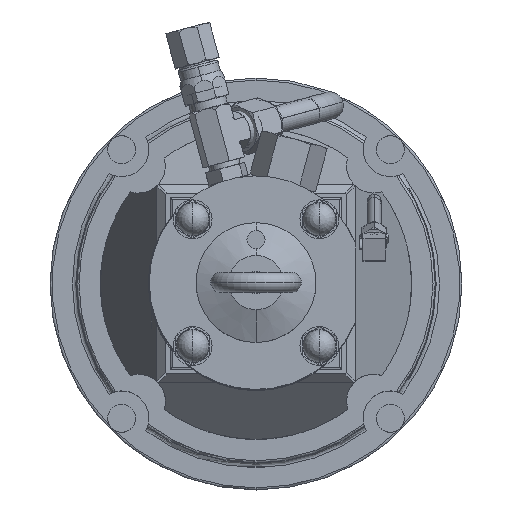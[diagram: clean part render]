
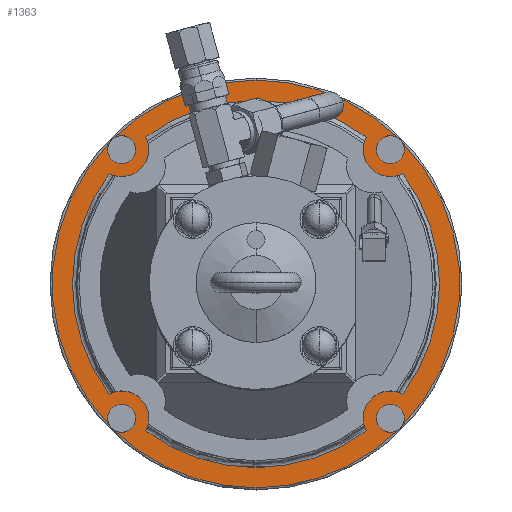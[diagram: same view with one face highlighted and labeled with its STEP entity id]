
A CAD part, top view. The second image highlights one B-rep face of the part: STEP entity #1363.
In plain terms, the highlighted planar face has unit normal (0, 0, 1).
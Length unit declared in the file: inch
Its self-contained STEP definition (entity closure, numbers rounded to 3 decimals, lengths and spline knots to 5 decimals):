
#33=CARTESIAN_POINT('',(3.712,-3.712,0.344));
#34=DIRECTION('',(0.,0.,1.));
#35=DIRECTION('',(0.81,-0.586,0.));
#36=AXIS2_PLACEMENT_3D('',#33,#34,#35);
#38=CARTESIAN_POINT('',(3.712,-3.712,0.344));
#39=DIRECTION('',(0.,0.,1.));
#40=DIRECTION('',(1.,0.,0.));
#41=AXIS2_PLACEMENT_3D('',#38,#39,#40);
#43=CARTESIAN_POINT('',(3.712,-3.712,0.344));
#44=DIRECTION('',(0.,0.,1.));
#45=DIRECTION('',(-1.,0.,0.));
#46=AXIS2_PLACEMENT_3D('',#43,#44,#45);
#48=CARTESIAN_POINT('',(-3.712,-3.712,0.344));
#49=DIRECTION('',(0.,0.,1.));
#50=DIRECTION('',(-0.586,-0.81,0.));
#51=AXIS2_PLACEMENT_3D('',#48,#49,#50);
#53=CARTESIAN_POINT('',(-3.712,-3.712,0.344));
#54=DIRECTION('',(0.,0.,1.));
#55=DIRECTION('',(1.,0.,0.));
#56=AXIS2_PLACEMENT_3D('',#53,#54,#55);
#58=CARTESIAN_POINT('',(-3.712,-3.712,0.344));
#59=DIRECTION('',(0.,0.,1.));
#60=DIRECTION('',(-1.,0.,0.));
#61=AXIS2_PLACEMENT_3D('',#58,#59,#60);
#63=CARTESIAN_POINT('',(-3.712,3.712,0.344));
#64=DIRECTION('',(0.,0.,1.));
#65=DIRECTION('',(-0.81,0.586,0.));
#66=AXIS2_PLACEMENT_3D('',#63,#64,#65);
#68=CARTESIAN_POINT('',(-3.712,3.712,0.344));
#69=DIRECTION('',(0.,0.,1.));
#70=DIRECTION('',(-1.,0.,0.));
#71=AXIS2_PLACEMENT_3D('',#68,#69,#70);
#73=CARTESIAN_POINT('',(-3.712,3.712,0.344));
#74=DIRECTION('',(0.,0.,1.));
#75=DIRECTION('',(1.,0.,0.));
#76=AXIS2_PLACEMENT_3D('',#73,#74,#75);
#78=CARTESIAN_POINT('',(3.712,3.712,0.344));
#79=DIRECTION('',(0.,0.,1.));
#80=DIRECTION('',(0.586,0.81,0.));
#81=AXIS2_PLACEMENT_3D('',#78,#79,#80);
#83=CARTESIAN_POINT('',(3.712,3.712,0.344));
#84=DIRECTION('',(0.,0.,1.));
#85=DIRECTION('',(-1.,0.,0.));
#86=AXIS2_PLACEMENT_3D('',#83,#84,#85);
#88=CARTESIAN_POINT('',(3.712,3.712,0.344));
#89=DIRECTION('',(0.,0.,1.));
#90=DIRECTION('',(1.,0.,0.));
#91=AXIS2_PLACEMENT_3D('',#88,#89,#90);
#681=CARTESIAN_POINT('',(0.,0.,0.344));
#682=DIRECTION('',(0.,0.,-1.));
#683=DIRECTION('',(0.715,0.699,0.));
#684=AXIS2_PLACEMENT_3D('',#681,#682,#683);
#692=CARTESIAN_POINT('',(0.,0.,0.344));
#693=DIRECTION('',(0.,0.,-1.));
#694=DIRECTION('',(0.,1.,0.));
#695=AXIS2_PLACEMENT_3D('',#692,#693,#694);
#702=CARTESIAN_POINT('',(0.,0.,0.344));
#703=DIRECTION('',(0.,0.,-1.));
#704=DIRECTION('',(0.699,-0.715,0.));
#705=AXIS2_PLACEMENT_3D('',#702,#703,#704);
#713=CARTESIAN_POINT('',(0.,0.,0.344));
#714=DIRECTION('',(0.,0.,1.));
#715=DIRECTION('',(-0.699,-0.715,0.));
#716=AXIS2_PLACEMENT_3D('',#713,#714,#715);
#733=CARTESIAN_POINT('',(0.,0.,0.344));
#734=DIRECTION('',(0.,0.,1.));
#735=DIRECTION('',(0.,1.,0.));
#736=AXIS2_PLACEMENT_3D('',#733,#734,#735);
#744=CARTESIAN_POINT('',(0.,0.,0.344));
#745=DIRECTION('',(0.,0.,1.));
#746=DIRECTION('',(-0.715,0.699,0.));
#747=AXIS2_PLACEMENT_3D('',#744,#745,#746);
#1065=CARTESIAN_POINT('',(0.,-5.63,0.344));
#1066=VERTEX_POINT('',#1065);
#1067=CARTESIAN_POINT('',(0.,5.63,0.344));
#1068=VERTEX_POINT('',#1067);
#1212=CARTESIAN_POINT('',(-4.097,3.712,0.344));
#1213=CARTESIAN_POINT('',(-4.02404,3.93751,0.344));
#1214=VERTEX_POINT('',#1212);
#1215=VERTEX_POINT('',#1213);
#1216=CARTESIAN_POINT('',(-3.93751,4.02404,0.344));
#1217=CARTESIAN_POINT('',(-3.327,3.712,0.344));
#1218=VERTEX_POINT('',#1216);
#1219=VERTEX_POINT('',#1217);
#1224=CARTESIAN_POINT('',(-4.097,-3.712,0.344));
#1225=CARTESIAN_POINT('',(-4.02404,-3.93751,0.344));
#1226=VERTEX_POINT('',#1224);
#1227=VERTEX_POINT('',#1225);
#1228=CARTESIAN_POINT('',(-3.93751,-4.02404,0.344));
#1229=CARTESIAN_POINT('',(-3.327,-3.712,0.344));
#1230=VERTEX_POINT('',#1228);
#1231=VERTEX_POINT('',#1229);
#1236=CARTESIAN_POINT('',(4.097,3.712,0.344));
#1237=CARTESIAN_POINT('',(4.02404,3.93751,0.344));
#1238=VERTEX_POINT('',#1236);
#1239=VERTEX_POINT('',#1237);
#1240=CARTESIAN_POINT('',(3.93751,4.02404,0.344));
#1241=CARTESIAN_POINT('',(3.327,3.712,0.344));
#1242=VERTEX_POINT('',#1240);
#1243=VERTEX_POINT('',#1241);
#1248=CARTESIAN_POINT('',(4.097,-3.712,0.344));
#1249=CARTESIAN_POINT('',(4.02404,-3.93751,0.344));
#1250=VERTEX_POINT('',#1248);
#1251=VERTEX_POINT('',#1249);
#1252=CARTESIAN_POINT('',(3.93751,-4.02404,0.344));
#1253=CARTESIAN_POINT('',(3.327,-3.712,0.344));
#1254=VERTEX_POINT('',#1252);
#1255=VERTEX_POINT('',#1253);
#1320=CARTESIAN_POINT('',(0.,0.,0.344));
#1321=DIRECTION('',(0.,0.,1.));
#1322=DIRECTION('',(0.,-1.,0.));
#1323=AXIS2_PLACEMENT_3D('',#1320,#1321,#1322);
#1324=PLANE('',#1323);
#1326=ORIENTED_EDGE('',*,*,#1325,.T.);
#1328=ORIENTED_EDGE('',*,*,#1327,.T.);
#1330=ORIENTED_EDGE('',*,*,#1329,.T.);
#1332=ORIENTED_EDGE('',*,*,#1331,.T.);
#1334=ORIENTED_EDGE('',*,*,#1333,.F.);
#1336=ORIENTED_EDGE('',*,*,#1335,.T.);
#1338=ORIENTED_EDGE('',*,*,#1337,.T.);
#1340=ORIENTED_EDGE('',*,*,#1339,.T.);
#1342=ORIENTED_EDGE('',*,*,#1341,.F.);
#1344=ORIENTED_EDGE('',*,*,#1343,.T.);
#1346=ORIENTED_EDGE('',*,*,#1345,.T.);
#1348=ORIENTED_EDGE('',*,*,#1347,.T.);
#1350=ORIENTED_EDGE('',*,*,#1349,.F.);
#1352=ORIENTED_EDGE('',*,*,#1351,.T.);
#1354=ORIENTED_EDGE('',*,*,#1353,.T.);
#1356=ORIENTED_EDGE('',*,*,#1355,.T.);
#1358=ORIENTED_EDGE('',*,*,#1357,.T.);
#1360=ORIENTED_EDGE('',*,*,#1359,.T.);
#1361=EDGE_LOOP('',(#1326,#1328,#1330,#1332,#1334,#1336,#1338,#1340,#1342,#1344,
#1346,#1348,#1350,#1352,#1354,#1356,#1358,#1360));
#1362=FACE_OUTER_BOUND('',#1361,.F.);
#1363=ADVANCED_FACE('',(#1362),#1324,.T.);
#37=CIRCLE('',#36,0.385);
#42=CIRCLE('',#41,0.385);
#47=CIRCLE('',#46,0.385);
#52=CIRCLE('',#51,0.385);
#57=CIRCLE('',#56,0.385);
#62=CIRCLE('',#61,0.385);
#67=CIRCLE('',#66,0.385);
#72=CIRCLE('',#71,0.385);
#77=CIRCLE('',#76,0.385);
#82=CIRCLE('',#81,0.385);
#87=CIRCLE('',#86,0.385);
#92=CIRCLE('',#91,0.385);
#685=CIRCLE('',#684,5.63);
#696=CIRCLE('',#695,5.63);
#706=CIRCLE('',#705,5.63);
#717=CIRCLE('',#716,5.63);
#737=CIRCLE('',#736,5.63);
#748=CIRCLE('',#747,5.63);
#1325=EDGE_CURVE('',#1251,#1250,#37,.T.);
#1327=EDGE_CURVE('',#1250,#1255,#42,.T.);
#1329=EDGE_CURVE('',#1255,#1254,#47,.T.);
#1331=EDGE_CURVE('',#1254,#1066,#706,.T.);
#1333=EDGE_CURVE('',#1230,#1066,#717,.T.);
#1335=EDGE_CURVE('',#1230,#1231,#52,.T.);
#1337=EDGE_CURVE('',#1231,#1226,#57,.T.);
#1339=EDGE_CURVE('',#1226,#1227,#62,.T.);
#1341=EDGE_CURVE('',#1215,#1227,#748,.T.);
#1343=EDGE_CURVE('',#1215,#1214,#67,.T.);
#1345=EDGE_CURVE('',#1214,#1219,#72,.T.);
#1347=EDGE_CURVE('',#1219,#1218,#77,.T.);
#1349=EDGE_CURVE('',#1068,#1218,#737,.T.);
#1351=EDGE_CURVE('',#1068,#1242,#696,.T.);
#1353=EDGE_CURVE('',#1242,#1243,#82,.T.);
#1355=EDGE_CURVE('',#1243,#1238,#87,.T.);
#1357=EDGE_CURVE('',#1238,#1239,#92,.T.);
#1359=EDGE_CURVE('',#1239,#1251,#685,.T.);
